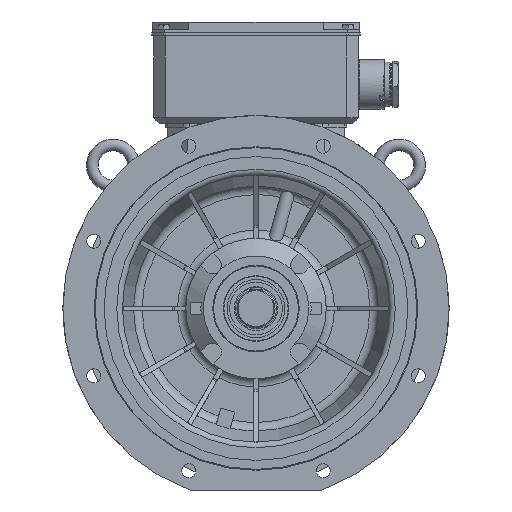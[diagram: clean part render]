
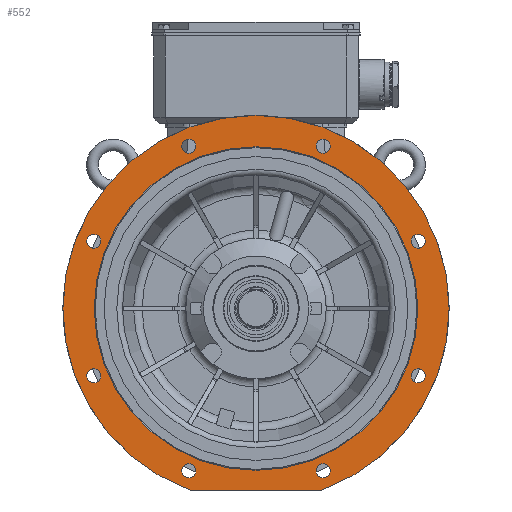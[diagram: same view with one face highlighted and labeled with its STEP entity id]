
A CAD part, front view. The second image highlights one B-rep face of the part: STEP entity #552.
In plain terms, the highlighted planar face has unit normal (0, -1, 0).
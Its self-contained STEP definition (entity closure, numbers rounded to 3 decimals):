
#552 = ADVANCED_FACE( '', ( #2420, #2421, #2422, #2423, #2424, #2425, #2426, #2427, #2428, #2429 ), #2430, .F. );
#2420 = FACE_BOUND( '', #5433, .T. );
#2421 = FACE_BOUND( '', #5434, .T. );
#2422 = FACE_BOUND( '', #5435, .T. );
#2423 = FACE_BOUND( '', #5436, .T. );
#2424 = FACE_BOUND( '', #5437, .T. );
#2425 = FACE_BOUND( '', #5438, .T. );
#2426 = FACE_BOUND( '', #5439, .T. );
#2427 = FACE_BOUND( '', #5440, .T. );
#2428 = FACE_BOUND( '', #5441, .T. );
#2429 = FACE_OUTER_BOUND( '', #5442, .T. );
#2430 = PLANE( '', #5443 );
#5433 = EDGE_LOOP( '', ( #14756 ) );
#5434 = EDGE_LOOP( '', ( #14757 ) );
#5435 = EDGE_LOOP( '', ( #14758 ) );
#5436 = EDGE_LOOP( '', ( #14759 ) );
#5437 = EDGE_LOOP( '', ( #14760 ) );
#5438 = EDGE_LOOP( '', ( #14761 ) );
#5439 = EDGE_LOOP( '', ( #14762 ) );
#5440 = EDGE_LOOP( '', ( #14763 ) );
#5441 = EDGE_LOOP( '', ( #14764 ) );
#5442 = EDGE_LOOP( '', ( #14765, #14766, #14767, #14768 ) );
#5443 = AXIS2_PLACEMENT_3D( '', #14769, #14770, #14771 );
#14756 = ORIENTED_EDGE( '', *, *, #24288, .F. );
#14757 = ORIENTED_EDGE( '', *, *, #24292, .F. );
#14758 = ORIENTED_EDGE( '', *, *, #24294, .F. );
#14759 = ORIENTED_EDGE( '', *, *, #24296, .F. );
#14760 = ORIENTED_EDGE( '', *, *, #24298, .F. );
#14761 = ORIENTED_EDGE( '', *, *, #24300, .F. );
#14762 = ORIENTED_EDGE( '', *, *, #24302, .F. );
#14763 = ORIENTED_EDGE( '', *, *, #24304, .F. );
#14764 = ORIENTED_EDGE( '', *, *, #24313, .F. );
#14765 = ORIENTED_EDGE( '', *, *, #24316, .T. );
#14766 = ORIENTED_EDGE( '', *, *, #24317, .F. );
#14767 = ORIENTED_EDGE( '', *, *, #24318, .T. );
#14768 = ORIENTED_EDGE( '', *, *, #24319, .F. );
#14769 = CARTESIAN_POINT( '', ( 0., -99.997, 276.4 ) );
#14770 = DIRECTION( '', ( 0., 1., 0. ) );
#14771 = DIRECTION( '', ( 0., 0., 1. ) );
#24288 = EDGE_CURVE( '', #28933, #28933, #28934, .T. );
#24292 = EDGE_CURVE( '', #28940, #28940, #28941, .T. );
#24294 = EDGE_CURVE( '', #28944, #28944, #28945, .T. );
#24296 = EDGE_CURVE( '', #28948, #28948, #28949, .T. );
#24298 = EDGE_CURVE( '', #28952, #28952, #28953, .T. );
#24300 = EDGE_CURVE( '', #28956, #28956, #28957, .T. );
#24302 = EDGE_CURVE( '', #28960, #28960, #28961, .T. );
#24304 = EDGE_CURVE( '', #28964, #28964, #28965, .T. );
#24313 = EDGE_CURVE( '', #28982, #28982, #28983, .T. );
#24316 = EDGE_CURVE( '', #28988, #28989, #28990, .F. );
#24317 = EDGE_CURVE( '', #28991, #28989, #28992, .T. );
#24318 = EDGE_CURVE( '', #28991, #28993, #28994, .F. );
#24319 = EDGE_CURVE( '', #28988, #28993, #28995, .T. );
#28933 = VERTEX_POINT( '', #37210 );
#28934 = CIRCLE( '', #37211, 12. );
#28940 = VERTEX_POINT( '', #37219 );
#28941 = CIRCLE( '', #37220, 12. );
#28944 = VERTEX_POINT( '', #37223 );
#28945 = CIRCLE( '', #37224, 12. );
#28948 = VERTEX_POINT( '', #37227 );
#28949 = CIRCLE( '', #37228, 12. );
#28952 = VERTEX_POINT( '', #37231 );
#28953 = CIRCLE( '', #37232, 12. );
#28956 = VERTEX_POINT( '', #37235 );
#28957 = CIRCLE( '', #37236, 12. );
#28960 = VERTEX_POINT( '', #37239 );
#28961 = CIRCLE( '', #37240, 12. );
#28964 = VERTEX_POINT( '', #37243 );
#28965 = CIRCLE( '', #37244, 12. );
#28982 = VERTEX_POINT( '', #37264 );
#28983 = CIRCLE( '', #37265, 276.4 );
#28988 = VERTEX_POINT( '', #37270 );
#28989 = VERTEX_POINT( '', #37271 );
#28990 = CIRCLE( '', #37272, 3. );
#28991 = VERTEX_POINT( '', #37273 );
#28992 = LINE( '', #37274, #37275 );
#28993 = VERTEX_POINT( '', #37276 );
#28994 = CIRCLE( '', #37277, 3. );
#28995 = CIRCLE( '', #37278, 330. );
#37210 = CARTESIAN_POINT( '', ( -265.164, -99.997, 114.805 ) );
#37211 = AXIS2_PLACEMENT_3D( '', #51213, #51214, #51215 );
#37219 = CARTESIAN_POINT( '', ( -265.164, -99.997, -114.805 ) );
#37220 = AXIS2_PLACEMENT_3D( '', #51221, #51222, #51223 );
#37223 = CARTESIAN_POINT( '', ( -102.805, -99.997, -277.164 ) );
#37224 = AXIS2_PLACEMENT_3D( '', #51227, #51228, #51229 );
#37227 = CARTESIAN_POINT( '', ( 126.805, -99.997, -277.164 ) );
#37228 = AXIS2_PLACEMENT_3D( '', #51233, #51234, #51235 );
#37231 = CARTESIAN_POINT( '', ( 289.164, -99.997, -114.805 ) );
#37232 = AXIS2_PLACEMENT_3D( '', #51239, #51240, #51241 );
#37235 = CARTESIAN_POINT( '', ( 289.164, -99.997, 114.805 ) );
#37236 = AXIS2_PLACEMENT_3D( '', #51245, #51246, #51247 );
#37239 = CARTESIAN_POINT( '', ( 126.805, -99.997, 277.164 ) );
#37240 = AXIS2_PLACEMENT_3D( '', #51251, #51252, #51253 );
#37243 = CARTESIAN_POINT( '', ( -102.805, -99.997, 277.164 ) );
#37244 = AXIS2_PLACEMENT_3D( '', #51257, #51258, #51259 );
#37264 = CARTESIAN_POINT( '', ( 0., -99.997, -276.4 ) );
#37265 = AXIS2_PLACEMENT_3D( '', #51278, #51279, #51280 );
#37270 = CARTESIAN_POINT( '', ( -113.639, -99.997, -309.817 ) );
#37271 = CARTESIAN_POINT( '', ( -112.606, -99.997, -310. ) );
#37272 = AXIS2_PLACEMENT_3D( '', #51287, #51288, #51289 );
#37273 = CARTESIAN_POINT( '', ( 112.606, -99.997, -310. ) );
#37274 = CARTESIAN_POINT( '', ( -113.137, -99.997, -310. ) );
#37275 = VECTOR( '', #51290, 1000. );
#37276 = CARTESIAN_POINT( '', ( 113.639, -99.997, -309.817 ) );
#37277 = AXIS2_PLACEMENT_3D( '', #51291, #51292, #51293 );
#37278 = AXIS2_PLACEMENT_3D( '', #51294, #51295, #51296 );
#51213 = CARTESIAN_POINT( '', ( -277.164, -99.997, 114.805 ) );
#51214 = DIRECTION( '', ( 0., -1., 0. ) );
#51215 = DIRECTION( '', ( 1., 0., 0. ) );
#51221 = CARTESIAN_POINT( '', ( -277.164, -99.997, -114.805 ) );
#51222 = DIRECTION( '', ( 0., -1., 0. ) );
#51223 = DIRECTION( '', ( 1., 0., 0. ) );
#51227 = CARTESIAN_POINT( '', ( -114.805, -99.997, -277.164 ) );
#51228 = DIRECTION( '', ( 0., -1., 0. ) );
#51229 = DIRECTION( '', ( 1., 0., 0. ) );
#51233 = CARTESIAN_POINT( '', ( 114.805, -99.997, -277.164 ) );
#51234 = DIRECTION( '', ( 0., -1., 0. ) );
#51235 = DIRECTION( '', ( 1., 0., 0. ) );
#51239 = CARTESIAN_POINT( '', ( 277.164, -99.997, -114.805 ) );
#51240 = DIRECTION( '', ( 0., -1., 0. ) );
#51241 = DIRECTION( '', ( 1., 0., 0. ) );
#51245 = CARTESIAN_POINT( '', ( 277.164, -99.997, 114.805 ) );
#51246 = DIRECTION( '', ( 0., -1., 0. ) );
#51247 = DIRECTION( '', ( 1., 0., 0. ) );
#51251 = CARTESIAN_POINT( '', ( 114.805, -99.997, 277.164 ) );
#51252 = DIRECTION( '', ( 0., -1., 0. ) );
#51253 = DIRECTION( '', ( 1., 0., 0. ) );
#51257 = CARTESIAN_POINT( '', ( -114.805, -99.997, 277.164 ) );
#51258 = DIRECTION( '', ( 0., -1., 0. ) );
#51259 = DIRECTION( '', ( 1., 0., 0. ) );
#51278 = CARTESIAN_POINT( '', ( 0., -99.997, 0. ) );
#51279 = DIRECTION( '', ( 0., -1., 0. ) );
#51280 = DIRECTION( '', ( 0., 0., -1. ) );
#51287 = CARTESIAN_POINT( '', ( -112.606, -99.997, -307. ) );
#51288 = DIRECTION( '', ( 0., 1., 0. ) );
#51289 = DIRECTION( '', ( 0., 0., 1. ) );
#51290 = DIRECTION( '', ( -1., 0., 0. ) );
#51291 = CARTESIAN_POINT( '', ( 112.606, -99.997, -307. ) );
#51292 = DIRECTION( '', ( 0., 1., 0. ) );
#51293 = DIRECTION( '', ( 0., 0., 1. ) );
#51294 = CARTESIAN_POINT( '', ( 0., -99.997, 0. ) );
#51295 = DIRECTION( '', ( 0., 1., 0. ) );
#51296 = DIRECTION( '', ( 0., 0., 1. ) );
